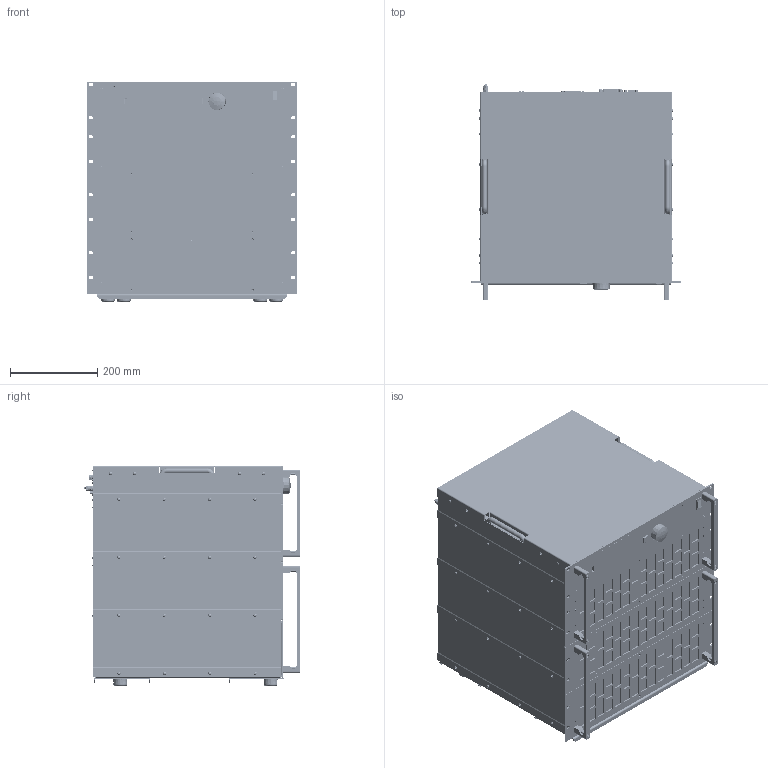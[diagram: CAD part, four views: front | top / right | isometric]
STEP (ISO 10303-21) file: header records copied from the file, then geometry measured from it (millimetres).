
FILE_DESCRIPTION(('STEP AP214'),'1');
FILE_NAME('ACL_M15_19Z_11HE_PH3_7.62-ST41_BRA_3D_02.step','2020-02-20T10:24:28',(' '),(' '),'Spatial InterOp 3D',' ',' ');
FILE_SCHEMA(('AUTOMOTIVE_DESIGN { 1 0 10303 214 1 1 1 1 }'));
Length unit declared in the file: millimetre
Products named in the file (20): *U261; *U262; *U263; *U264; *U265; *U266; *U267; *U298; A$C72AE6952; 2078_ACL_IO Panel_02; 2085_ACL_Rückwand_Steuerteil_Single_Phase_mit_Druck_3D_02; *U299; *U255; *U256; *U257; *U249; *U250; *U251; AutoCreatedBlock_2182
Assembly tree (119 placements, depth 2):
  (unnamed)
    *U261  x2
    *U262
    *U263  x3
    *U264  x2
    *U265  x2
    *U266  x13
    *U267  x16
    *U298  x6
    A$C72AE6952
    2078_ACL_IO Panel_02
    2085_ACL_Rückwand_Steuerteil_Single_Phase_mit_Druck_3D_02
    *U299  x4
    *U255  x8
    *U256  x6
    *U257  x8
    *U249  x16
    *U250  x12
    *U251  x16
    AutoCreatedBlock_2182
Bounding box: 482.61 x 497.65 x 505.83 mm (x, y, z)
Volume: 3529961 mm3; surface area: 5228560.5 mm2
Topology: 287 solids, 415 shells, 21917 faces, 55183 edges, 34610 vertices
Faces by surface type: plane 10554, cone 7105, cylinder 3556, sphere 261, torus 223, bspline 190, extrusion 28
Entity records: 683468 total; most frequent: CARTESIAN_POINT 128558, DIRECTION 86127, ORIENTED_EDGE 84564, EDGE_CURVE 42531, VECTOR 30527, LINE 30499, AXIS2_PLACEMENT_3D 27800, VERTEX_POINT 27007
